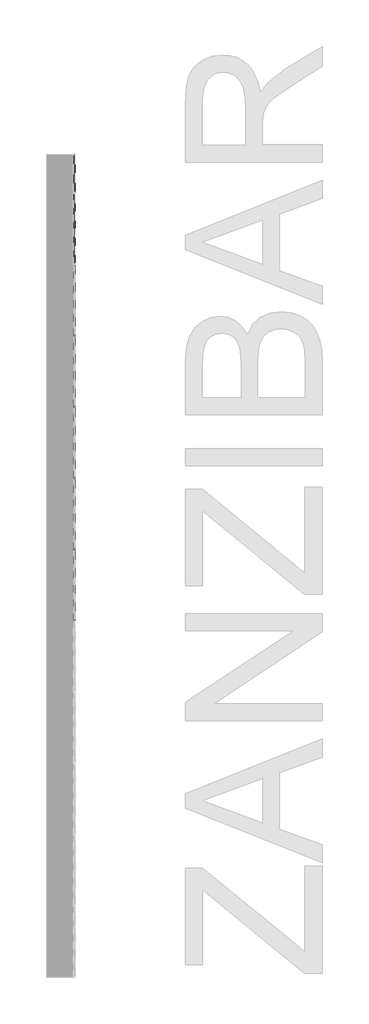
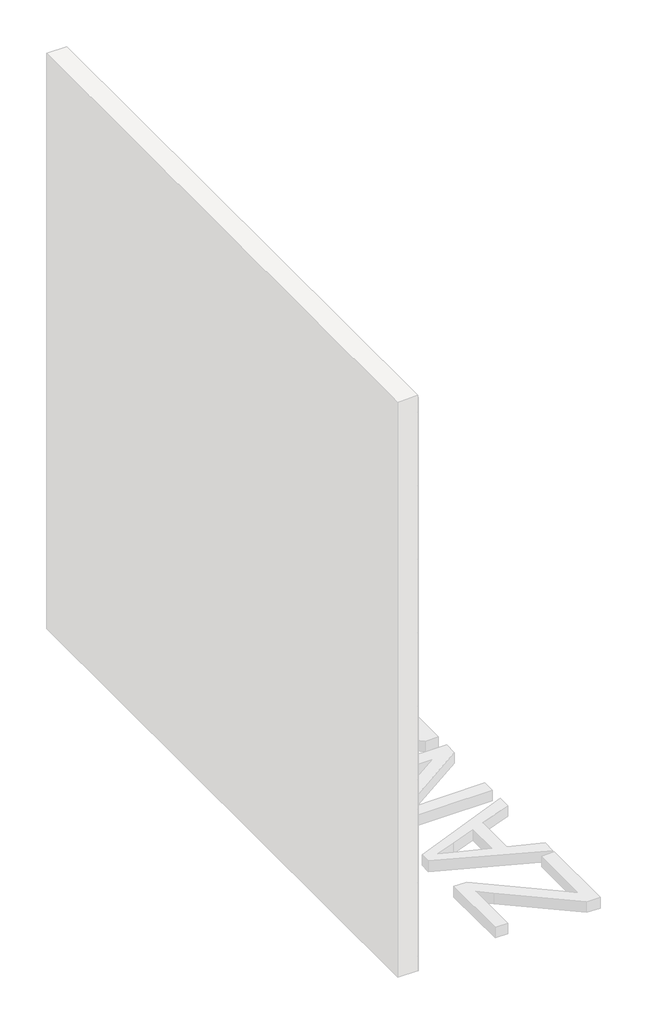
# One storey, part 44 of 45: 146 proxies.
"""IFC4 building model written with IfcOpenShell, lengths in millimetres."""

from ifc_helpers import new_model, si_unit, origin, place, context, project, spatial, transform, mapped, element, save
from components import generic_models_ab0f2c30, generic_models_1527efce

model = new_model("IFC4")

# Units and contexts
model_context = context("Model", 3, world=origin())
ifc_project = project(units=[si_unit("LENGTHUNIT", "METRE", prefix="MILLI")], contexts=[model_context])

# Site, building, storey
site = spatial("IfcSite", under=ifc_project)
building = spatial("IfcBuilding", under=site)
storey = spatial("IfcBuildingStorey", under=building, Name="PORTOBELLO - SHOWROOM", Elevation=0.0)

# Proxies
placement = place(None, origin())
generic_models_shape = generic_models_ab0f2c30(model_context)
element("IfcBuildingElementProxy", 1, Name="PBSHOP - HORIZONTES ZANZIBAR 6,5X23 : ZANZIBAR", ObjectType="PBSHOP - HORIZONTES ZANZIBAR 6,5X23 : ZANZIBAR", at=placement, inside=storey, context=model_context, shape_type="MappedRepresentation", body=[
    mapped(generic_models_shape, transform((69111.8826867, 22220.0864672, 34.5), x_axis=(0.0, 0.0, 1.0), y_axis=(0.0, -1.0, 0.0), z_axis=(1.0, 0.0, 0.0))),
])
element("IfcBuildingElementProxy", 2, Name="PBSHOP - HORIZONTES ZANZIBAR 6,5X23 : ZANZIBAR", ObjectType="PBSHOP - HORIZONTES ZANZIBAR 6,5X23 : ZANZIBAR", at=placement, inside=storey, context=model_context, shape_type="MappedRepresentation", body=[
    mapped(generic_models_shape, transform((69111.8826867, 22220.0864672, 103.5), x_axis=(0.0, 0.0, 1.0), y_axis=(0.0, -1.0, 0.0), z_axis=(1.0, 0.0, 0.0))),
])
element("IfcBuildingElementProxy", 3, Name="PBSHOP - HORIZONTES ZANZIBAR 6,5X23 : ZANZIBAR", ObjectType="PBSHOP - HORIZONTES ZANZIBAR 6,5X23 : ZANZIBAR", at=placement, inside=storey, context=model_context, shape_type="MappedRepresentation", body=[
    mapped(generic_models_shape, transform((69111.8826867, 22220.0864672, 172.5), x_axis=(0.0, 0.0, 1.0), y_axis=(0.0, -1.0, 0.0), z_axis=(1.0, 0.0, 0.0))),
])
element("IfcBuildingElementProxy", 4, Name="PBSHOP - HORIZONTES ZANZIBAR 6,5X23 : ZANZIBAR", ObjectType="PBSHOP - HORIZONTES ZANZIBAR 6,5X23 : ZANZIBAR", at=placement, inside=storey, context=model_context, shape_type="MappedRepresentation", body=[
    mapped(generic_models_shape, transform((69111.8826867, 22220.0864672, 241.5), x_axis=(0.0, 0.0, 1.0), y_axis=(0.0, -1.0, 0.0), z_axis=(1.0, 0.0, 0.0))),
])
element("IfcBuildingElementProxy", 5, Name="PBSHOP - HORIZONTES ZANZIBAR 6,5X23 : ZANZIBAR", ObjectType="PBSHOP - HORIZONTES ZANZIBAR 6,5X23 : ZANZIBAR", at=placement, inside=storey, context=model_context, shape_type="MappedRepresentation", body=[
    mapped(generic_models_shape, transform((69111.8826867, 22220.0864672, 310.5), x_axis=(0.0, 0.0, 1.0), y_axis=(0.0, -1.0, 0.0), z_axis=(1.0, 0.0, 0.0))),
])
element("IfcBuildingElementProxy", 6, Name="PBSHOP - HORIZONTES ZANZIBAR 6,5X23 : ZANZIBAR", ObjectType="PBSHOP - HORIZONTES ZANZIBAR 6,5X23 : ZANZIBAR", at=placement, inside=storey, context=model_context, shape_type="MappedRepresentation", body=[
    mapped(generic_models_shape, transform((69111.8826867, 22220.0864672, 379.5), x_axis=(0.0, 0.0, 1.0), y_axis=(0.0, -1.0, 0.0), z_axis=(1.0, 0.0, 0.0))),
])
element("IfcBuildingElementProxy", 7, Name="PBSHOP - HORIZONTES ZANZIBAR 6,5X23 : ZANZIBAR", ObjectType="PBSHOP - HORIZONTES ZANZIBAR 6,5X23 : ZANZIBAR", at=placement, inside=storey, context=model_context, shape_type="MappedRepresentation", body=[
    mapped(generic_models_shape, transform((69111.8826867, 22220.0864672, 448.5), x_axis=(0.0, 0.0, 1.0), y_axis=(0.0, -1.0, 0.0), z_axis=(1.0, 0.0, 0.0))),
])
element("IfcBuildingElementProxy", 8, Name="PBSHOP - HORIZONTES ZANZIBAR 6,5X23 : ZANZIBAR", ObjectType="PBSHOP - HORIZONTES ZANZIBAR 6,5X23 : ZANZIBAR", at=placement, inside=storey, context=model_context, shape_type="MappedRepresentation", body=[
    mapped(generic_models_shape, transform((69111.8826867, 22220.0864672, 517.5), x_axis=(0.0, 0.0, 1.0), y_axis=(0.0, -1.0, 0.0), z_axis=(1.0, 0.0, 0.0))),
])
element("IfcBuildingElementProxy", 9, Name="PBSHOP - HORIZONTES ZANZIBAR 6,5X23 : ZANZIBAR", ObjectType="PBSHOP - HORIZONTES ZANZIBAR 6,5X23 : ZANZIBAR", at=placement, inside=storey, context=model_context, shape_type="MappedRepresentation", body=[
    mapped(generic_models_shape, transform((69111.8826867, 22220.0864672, 586.5), x_axis=(0.0, 0.0, 1.0), y_axis=(0.0, -1.0, 0.0), z_axis=(1.0, 0.0, 0.0))),
])
element("IfcBuildingElementProxy", 10, Name="PBSHOP - HORIZONTES ZANZIBAR 6,5X23 : ZANZIBAR", ObjectType="PBSHOP - HORIZONTES ZANZIBAR 6,5X23 : ZANZIBAR", at=placement, inside=storey, context=model_context, shape_type="MappedRepresentation", body=[
    mapped(generic_models_shape, transform((69111.8826867, 22220.0864672, 655.5), x_axis=(0.0, 0.0, 1.0), y_axis=(0.0, -1.0, 0.0), z_axis=(1.0, 0.0, 0.0))),
])
element("IfcBuildingElementProxy", 11, Name="PBSHOP - HORIZONTES ZANZIBAR 6,5X23 : ZANZIBAR", ObjectType="PBSHOP - HORIZONTES ZANZIBAR 6,5X23 : ZANZIBAR", at=placement, inside=storey, context=model_context, shape_type="MappedRepresentation", body=[
    mapped(generic_models_shape, transform((69111.8826867, 22220.0864672, 724.5), x_axis=(0.0, 0.0, 1.0), y_axis=(0.0, -1.0, 0.0), z_axis=(1.0, 0.0, 0.0))),
])
element("IfcBuildingElementProxy", 12, Name="PBSHOP - HORIZONTES ZANZIBAR 6,5X23 : ZANZIBAR", ObjectType="PBSHOP - HORIZONTES ZANZIBAR 6,5X23 : ZANZIBAR", at=placement, inside=storey, context=model_context, shape_type="MappedRepresentation", body=[
    mapped(generic_models_shape, transform((69111.8826867, 22220.0864672, 793.5), x_axis=(0.0, 0.0, 1.0), y_axis=(0.0, -1.0, 0.0), z_axis=(1.0, 0.0, 0.0))),
])
element("IfcBuildingElementProxy", 13, Name="PBSHOP - HORIZONTES ZANZIBAR 6,5X23 : ZANZIBAR", ObjectType="PBSHOP - HORIZONTES ZANZIBAR 6,5X23 : ZANZIBAR", at=placement, inside=storey, context=model_context, shape_type="MappedRepresentation", body=[
    mapped(generic_models_shape, transform((69111.8826867, 22220.0864672, 862.5), x_axis=(0.0, 0.0, 1.0), y_axis=(0.0, -1.0, 0.0), z_axis=(1.0, 0.0, 0.0))),
])
element("IfcBuildingElementProxy", 14, Name="PBSHOP - HORIZONTES ZANZIBAR 6,5X23 : ZANZIBAR", ObjectType="PBSHOP - HORIZONTES ZANZIBAR 6,5X23 : ZANZIBAR", at=placement, inside=storey, context=model_context, shape_type="MappedRepresentation", body=[
    mapped(generic_models_shape, transform((69111.8826867, 22220.0864672, 931.5), x_axis=(0.0, 0.0, 1.0), y_axis=(0.0, -1.0, 0.0), z_axis=(1.0, 0.0, 0.0))),
])
element("IfcBuildingElementProxy", 15, Name="PBSHOP - HORIZONTES ZANZIBAR 6,5X23 : ZANZIBAR", ObjectType="PBSHOP - HORIZONTES ZANZIBAR 6,5X23 : ZANZIBAR", at=placement, inside=storey, context=model_context, shape_type="MappedRepresentation", body=[
    mapped(generic_models_shape, transform((69111.8826867, 22220.0864672, 1000.5), x_axis=(0.0, 0.0, 1.0), y_axis=(0.0, -1.0, 0.0), z_axis=(1.0, 0.0, 0.0))),
])
element("IfcBuildingElementProxy", 16, Name="PBSHOP - HORIZONTES ZANZIBAR 6,5X23 : ZANZIBAR", ObjectType="PBSHOP - HORIZONTES ZANZIBAR 6,5X23 : ZANZIBAR", at=placement, inside=storey, context=model_context, shape_type="MappedRepresentation", body=[
    mapped(generic_models_shape, transform((69111.8826867, 22220.0864672, 1069.5), x_axis=(0.0, 0.0, 1.0), y_axis=(0.0, -1.0, 0.0), z_axis=(1.0, 0.0, 0.0))),
])
element("IfcBuildingElementProxy", 17, Name="PBSHOP - HORIZONTES ZANZIBAR 6,5X23 : ZANZIBAR", ObjectType="PBSHOP - HORIZONTES ZANZIBAR 6,5X23 : ZANZIBAR", at=placement, inside=storey, context=model_context, shape_type="MappedRepresentation", body=[
    mapped(generic_models_shape, transform((69111.8826867, 22220.0864672, 1138.5), x_axis=(0.0, 0.0, 1.0), y_axis=(0.0, -1.0, 0.0), z_axis=(1.0, 0.0, 0.0))),
])
element("IfcBuildingElementProxy", 18, Name="PBSHOP - HORIZONTES ZANZIBAR 6,5X23 : ZANZIBAR", ObjectType="PBSHOP - HORIZONTES ZANZIBAR 6,5X23 : ZANZIBAR", at=placement, inside=storey, context=model_context, shape_type="MappedRepresentation", body=[
    mapped(generic_models_shape, transform((69111.8826867, 22220.0864672, 1207.5), x_axis=(0.0, 0.0, 1.0), y_axis=(0.0, -1.0, 0.0), z_axis=(1.0, 0.0, 0.0))),
])
element("IfcBuildingElementProxy", 19, Name="PBSHOP - HORIZONTES ZANZIBAR 6,5X23 : ZANZIBAR", ObjectType="PBSHOP - HORIZONTES ZANZIBAR 6,5X23 : ZANZIBAR", at=placement, inside=storey, context=model_context, shape_type="MappedRepresentation", body=[
    mapped(generic_models_shape, transform((69111.8826867, 21050.0864672, 1276.5), x_axis=(0.0, 0.0, 1.0), y_axis=(0.0, -1.0, 0.0), z_axis=(1.0, 0.0, 0.0))),
])
element("IfcBuildingElementProxy", 20, Name="PBSHOP - HORIZONTES ZANZIBAR 6,5X23 : ZANZIBAR", ObjectType="PBSHOP - HORIZONTES ZANZIBAR 6,5X23 : ZANZIBAR", at=placement, inside=storey, context=model_context, shape_type="MappedRepresentation", body=[
    mapped(generic_models_shape, transform((69111.8826867, 21284.0864672, 1276.5), x_axis=(0.0, 0.0, 1.0), y_axis=(0.0, -1.0, 0.0), z_axis=(1.0, 0.0, 0.0))),
])
element("IfcBuildingElementProxy", 21, Name="PBSHOP - HORIZONTES ZANZIBAR 6,5X23 : ZANZIBAR", ObjectType="PBSHOP - HORIZONTES ZANZIBAR 6,5X23 : ZANZIBAR", at=placement, inside=storey, context=model_context, shape_type="MappedRepresentation", body=[
    mapped(generic_models_shape, transform((69111.8826867, 21518.0864672, 1276.5), x_axis=(0.0, 0.0, 1.0), y_axis=(0.0, -1.0, 0.0), z_axis=(1.0, 0.0, 0.0))),
])
element("IfcBuildingElementProxy", 22, Name="PBSHOP - HORIZONTES ZANZIBAR 6,5X23 : ZANZIBAR", ObjectType="PBSHOP - HORIZONTES ZANZIBAR 6,5X23 : ZANZIBAR", at=placement, inside=storey, context=model_context, shape_type="MappedRepresentation", body=[
    mapped(generic_models_shape, transform((69111.8826867, 21752.0864672, 1276.5), x_axis=(0.0, 0.0, 1.0), y_axis=(0.0, -1.0, 0.0), z_axis=(1.0, 0.0, 0.0))),
])
element("IfcBuildingElementProxy", 23, Name="PBSHOP - HORIZONTES ZANZIBAR 6,5X23 : ZANZIBAR", ObjectType="PBSHOP - HORIZONTES ZANZIBAR 6,5X23 : ZANZIBAR", at=placement, inside=storey, context=model_context, shape_type="MappedRepresentation", body=[
    mapped(generic_models_shape, transform((69111.8826867, 21986.0864672, 1276.5), x_axis=(0.0, 0.0, 1.0), y_axis=(0.0, -1.0, 0.0), z_axis=(1.0, 0.0, 0.0))),
])
element("IfcBuildingElementProxy", 24, Name="PBSHOP - HORIZONTES ZANZIBAR 6,5X23 : ZANZIBAR", ObjectType="PBSHOP - HORIZONTES ZANZIBAR 6,5X23 : ZANZIBAR", at=placement, inside=storey, context=model_context, shape_type="MappedRepresentation", body=[
    mapped(generic_models_shape, transform((69111.8826867, 22220.0864672, 1276.5), x_axis=(0.0, 0.0, 1.0), y_axis=(0.0, -1.0, 0.0), z_axis=(1.0, 0.0, 0.0))),
])
element("IfcBuildingElementProxy", 25, Name="PBSHOP - HORIZONTES ZANZIBAR 6,5X23 : ZANZIBAR", ObjectType="PBSHOP - HORIZONTES ZANZIBAR 6,5X23 : ZANZIBAR", at=placement, inside=storey, context=model_context, shape_type="MappedRepresentation", body=[
    mapped(generic_models_shape, transform((69111.8826867, 21050.0864672, 1345.5), x_axis=(0.0, 0.0, 1.0), y_axis=(0.0, -1.0, 0.0), z_axis=(1.0, 0.0, 0.0))),
])
element("IfcBuildingElementProxy", 26, Name="PBSHOP - HORIZONTES ZANZIBAR 6,5X23 : ZANZIBAR", ObjectType="PBSHOP - HORIZONTES ZANZIBAR 6,5X23 : ZANZIBAR", at=placement, inside=storey, context=model_context, shape_type="MappedRepresentation", body=[
    mapped(generic_models_shape, transform((69111.8826867, 21284.0864672, 1345.5), x_axis=(0.0, 0.0, 1.0), y_axis=(0.0, -1.0, 0.0), z_axis=(1.0, 0.0, 0.0))),
])
element("IfcBuildingElementProxy", 27, Name="PBSHOP - HORIZONTES ZANZIBAR 6,5X23 : ZANZIBAR", ObjectType="PBSHOP - HORIZONTES ZANZIBAR 6,5X23 : ZANZIBAR", at=placement, inside=storey, context=model_context, shape_type="MappedRepresentation", body=[
    mapped(generic_models_shape, transform((69111.8826867, 21518.0864672, 1345.5), x_axis=(0.0, 0.0, 1.0), y_axis=(0.0, -1.0, 0.0), z_axis=(1.0, 0.0, 0.0))),
])
element("IfcBuildingElementProxy", 28, Name="PBSHOP - HORIZONTES ZANZIBAR 6,5X23 : ZANZIBAR", ObjectType="PBSHOP - HORIZONTES ZANZIBAR 6,5X23 : ZANZIBAR", at=placement, inside=storey, context=model_context, shape_type="MappedRepresentation", body=[
    mapped(generic_models_shape, transform((69111.8826867, 21752.0864672, 1345.5), x_axis=(0.0, 0.0, 1.0), y_axis=(0.0, -1.0, 0.0), z_axis=(1.0, 0.0, 0.0))),
])
element("IfcBuildingElementProxy", 29, Name="PBSHOP - HORIZONTES ZANZIBAR 6,5X23 : ZANZIBAR", ObjectType="PBSHOP - HORIZONTES ZANZIBAR 6,5X23 : ZANZIBAR", at=placement, inside=storey, context=model_context, shape_type="MappedRepresentation", body=[
    mapped(generic_models_shape, transform((69111.8826867, 21986.0864672, 1345.5), x_axis=(0.0, 0.0, 1.0), y_axis=(0.0, -1.0, 0.0), z_axis=(1.0, 0.0, 0.0))),
])
element("IfcBuildingElementProxy", 30, Name="PBSHOP - HORIZONTES ZANZIBAR 6,5X23 : ZANZIBAR", ObjectType="PBSHOP - HORIZONTES ZANZIBAR 6,5X23 : ZANZIBAR", at=placement, inside=storey, context=model_context, shape_type="MappedRepresentation", body=[
    mapped(generic_models_shape, transform((69111.8826867, 22220.0864672, 1345.5), x_axis=(0.0, 0.0, 1.0), y_axis=(0.0, -1.0, 0.0), z_axis=(1.0, 0.0, 0.0))),
])
element("IfcBuildingElementProxy", 31, Name="PBSHOP - HORIZONTES ZANZIBAR 6,5X23 : ZANZIBAR", ObjectType="PBSHOP - HORIZONTES ZANZIBAR 6,5X23 : ZANZIBAR", at=placement, inside=storey, context=model_context, shape_type="MappedRepresentation", body=[
    mapped(generic_models_shape, transform((69111.8826867, 21050.0864672, 1414.5), x_axis=(0.0, 0.0, 1.0), y_axis=(0.0, -1.0, 0.0), z_axis=(1.0, 0.0, 0.0))),
])
element("IfcBuildingElementProxy", 32, Name="PBSHOP - HORIZONTES ZANZIBAR 6,5X23 : ZANZIBAR", ObjectType="PBSHOP - HORIZONTES ZANZIBAR 6,5X23 : ZANZIBAR", at=placement, inside=storey, context=model_context, shape_type="MappedRepresentation", body=[
    mapped(generic_models_shape, transform((69111.8826867, 21284.0864672, 1414.5), x_axis=(0.0, 0.0, 1.0), y_axis=(0.0, -1.0, 0.0), z_axis=(1.0, 0.0, 0.0))),
])
element("IfcBuildingElementProxy", 33, Name="PBSHOP - HORIZONTES ZANZIBAR 6,5X23 : ZANZIBAR", ObjectType="PBSHOP - HORIZONTES ZANZIBAR 6,5X23 : ZANZIBAR", at=placement, inside=storey, context=model_context, shape_type="MappedRepresentation", body=[
    mapped(generic_models_shape, transform((69111.8826867, 21518.0864672, 1414.5), x_axis=(0.0, 0.0, 1.0), y_axis=(0.0, -1.0, 0.0), z_axis=(1.0, 0.0, 0.0))),
])
element("IfcBuildingElementProxy", 34, Name="PBSHOP - HORIZONTES ZANZIBAR 6,5X23 : ZANZIBAR", ObjectType="PBSHOP - HORIZONTES ZANZIBAR 6,5X23 : ZANZIBAR", at=placement, inside=storey, context=model_context, shape_type="MappedRepresentation", body=[
    mapped(generic_models_shape, transform((69111.8826867, 21752.0864672, 1414.5), x_axis=(0.0, 0.0, 1.0), y_axis=(0.0, -1.0, 0.0), z_axis=(1.0, 0.0, 0.0))),
])
element("IfcBuildingElementProxy", 35, Name="PBSHOP - HORIZONTES ZANZIBAR 6,5X23 : ZANZIBAR", ObjectType="PBSHOP - HORIZONTES ZANZIBAR 6,5X23 : ZANZIBAR", at=placement, inside=storey, context=model_context, shape_type="MappedRepresentation", body=[
    mapped(generic_models_shape, transform((69111.8826867, 21986.0864672, 1414.5), x_axis=(0.0, 0.0, 1.0), y_axis=(0.0, -1.0, 0.0), z_axis=(1.0, 0.0, 0.0))),
])
element("IfcBuildingElementProxy", 36, Name="PBSHOP - HORIZONTES ZANZIBAR 6,5X23 : ZANZIBAR", ObjectType="PBSHOP - HORIZONTES ZANZIBAR 6,5X23 : ZANZIBAR", at=placement, inside=storey, context=model_context, shape_type="MappedRepresentation", body=[
    mapped(generic_models_shape, transform((69111.8826867, 22220.0864672, 1414.5), x_axis=(0.0, 0.0, 1.0), y_axis=(0.0, -1.0, 0.0), z_axis=(1.0, 0.0, 0.0))),
])
element("IfcBuildingElementProxy", 37, Name="PBSHOP - HORIZONTES ZANZIBAR 6,5X23 : ZANZIBAR", ObjectType="PBSHOP - HORIZONTES ZANZIBAR 6,5X23 : ZANZIBAR", at=placement, inside=storey, context=model_context, shape_type="MappedRepresentation", body=[
    mapped(generic_models_shape, transform((69111.8826867, 21050.0864672, 1483.5), x_axis=(0.0, 0.0, 1.0), y_axis=(0.0, -1.0, 0.0), z_axis=(1.0, 0.0, 0.0))),
])
element("IfcBuildingElementProxy", 38, Name="PBSHOP - HORIZONTES ZANZIBAR 6,5X23 : ZANZIBAR", ObjectType="PBSHOP - HORIZONTES ZANZIBAR 6,5X23 : ZANZIBAR", at=placement, inside=storey, context=model_context, shape_type="MappedRepresentation", body=[
    mapped(generic_models_shape, transform((69111.8826867, 21284.0864672, 1483.5), x_axis=(0.0, 0.0, 1.0), y_axis=(0.0, -1.0, 0.0), z_axis=(1.0, 0.0, 0.0))),
])
element("IfcBuildingElementProxy", 39, Name="PBSHOP - HORIZONTES ZANZIBAR 6,5X23 : ZANZIBAR", ObjectType="PBSHOP - HORIZONTES ZANZIBAR 6,5X23 : ZANZIBAR", at=placement, inside=storey, context=model_context, shape_type="MappedRepresentation", body=[
    mapped(generic_models_shape, transform((69111.8826867, 21518.0864672, 1483.5), x_axis=(0.0, 0.0, 1.0), y_axis=(0.0, -1.0, 0.0), z_axis=(1.0, 0.0, 0.0))),
])
element("IfcBuildingElementProxy", 40, Name="PBSHOP - HORIZONTES ZANZIBAR 6,5X23 : ZANZIBAR", ObjectType="PBSHOP - HORIZONTES ZANZIBAR 6,5X23 : ZANZIBAR", at=placement, inside=storey, context=model_context, shape_type="MappedRepresentation", body=[
    mapped(generic_models_shape, transform((69111.8826867, 21752.0864672, 1483.5), x_axis=(0.0, 0.0, 1.0), y_axis=(0.0, -1.0, 0.0), z_axis=(1.0, 0.0, 0.0))),
])
element("IfcBuildingElementProxy", 41, Name="PBSHOP - HORIZONTES ZANZIBAR 6,5X23 : ZANZIBAR", ObjectType="PBSHOP - HORIZONTES ZANZIBAR 6,5X23 : ZANZIBAR", at=placement, inside=storey, context=model_context, shape_type="MappedRepresentation", body=[
    mapped(generic_models_shape, transform((69111.8826867, 21986.0864672, 1483.5), x_axis=(0.0, 0.0, 1.0), y_axis=(0.0, -1.0, 0.0), z_axis=(1.0, 0.0, 0.0))),
])
element("IfcBuildingElementProxy", 42, Name="PBSHOP - HORIZONTES ZANZIBAR 6,5X23 : ZANZIBAR", ObjectType="PBSHOP - HORIZONTES ZANZIBAR 6,5X23 : ZANZIBAR", at=placement, inside=storey, context=model_context, shape_type="MappedRepresentation", body=[
    mapped(generic_models_shape, transform((69111.8826867, 21050.0864672, 1552.5), x_axis=(0.0, 0.0, 1.0), y_axis=(0.0, -1.0, 0.0), z_axis=(1.0, 0.0, 0.0))),
])
element("IfcBuildingElementProxy", 43, Name="PBSHOP - HORIZONTES ZANZIBAR 6,5X23 : ZANZIBAR", ObjectType="PBSHOP - HORIZONTES ZANZIBAR 6,5X23 : ZANZIBAR", at=placement, inside=storey, context=model_context, shape_type="MappedRepresentation", body=[
    mapped(generic_models_shape, transform((69111.8826867, 21284.0864672, 1552.5), x_axis=(0.0, 0.0, 1.0), y_axis=(0.0, -1.0, 0.0), z_axis=(1.0, 0.0, 0.0))),
])
element("IfcBuildingElementProxy", 44, Name="PBSHOP - HORIZONTES ZANZIBAR 6,5X23 : ZANZIBAR", ObjectType="PBSHOP - HORIZONTES ZANZIBAR 6,5X23 : ZANZIBAR", at=placement, inside=storey, context=model_context, shape_type="MappedRepresentation", body=[
    mapped(generic_models_shape, transform((69111.8826867, 21518.0864672, 1552.5), x_axis=(0.0, 0.0, 1.0), y_axis=(0.0, -1.0, 0.0), z_axis=(1.0, 0.0, 0.0))),
])
element("IfcBuildingElementProxy", 45, Name="PBSHOP - HORIZONTES ZANZIBAR 6,5X23 : ZANZIBAR", ObjectType="PBSHOP - HORIZONTES ZANZIBAR 6,5X23 : ZANZIBAR", at=placement, inside=storey, context=model_context, shape_type="MappedRepresentation", body=[
    mapped(generic_models_shape, transform((69111.8826867, 21752.0864672, 1552.5), x_axis=(0.0, 0.0, 1.0), y_axis=(0.0, -1.0, 0.0), z_axis=(1.0, 0.0, 0.0))),
])
element("IfcBuildingElementProxy", 46, Name="PBSHOP - HORIZONTES ZANZIBAR 6,5X23 : ZANZIBAR", ObjectType="PBSHOP - HORIZONTES ZANZIBAR 6,5X23 : ZANZIBAR", at=placement, inside=storey, context=model_context, shape_type="MappedRepresentation", body=[
    mapped(generic_models_shape, transform((69111.8826867, 21986.0864672, 1552.5), x_axis=(0.0, 0.0, 1.0), y_axis=(0.0, -1.0, 0.0), z_axis=(1.0, 0.0, 0.0))),
])
element("IfcBuildingElementProxy", 47, Name="PBSHOP - HORIZONTES ZANZIBAR 6,5X23 : ZANZIBAR", ObjectType="PBSHOP - HORIZONTES ZANZIBAR 6,5X23 : ZANZIBAR", at=placement, inside=storey, context=model_context, shape_type="MappedRepresentation", body=[
    mapped(generic_models_shape, transform((69111.8826867, 21050.0864672, 1621.5), x_axis=(0.0, 0.0, 1.0), y_axis=(0.0, -1.0, 0.0), z_axis=(1.0, 0.0, 0.0))),
])
element("IfcBuildingElementProxy", 48, Name="PBSHOP - HORIZONTES ZANZIBAR 6,5X23 : ZANZIBAR", ObjectType="PBSHOP - HORIZONTES ZANZIBAR 6,5X23 : ZANZIBAR", at=placement, inside=storey, context=model_context, shape_type="MappedRepresentation", body=[
    mapped(generic_models_shape, transform((69111.8826867, 21284.0864672, 1621.5), x_axis=(0.0, 0.0, 1.0), y_axis=(0.0, -1.0, 0.0), z_axis=(1.0, 0.0, 0.0))),
])
element("IfcBuildingElementProxy", 49, Name="PBSHOP - HORIZONTES ZANZIBAR 6,5X23 : ZANZIBAR", ObjectType="PBSHOP - HORIZONTES ZANZIBAR 6,5X23 : ZANZIBAR", at=placement, inside=storey, context=model_context, shape_type="MappedRepresentation", body=[
    mapped(generic_models_shape, transform((69111.8826867, 21518.0864672, 1621.5), x_axis=(0.0, 0.0, 1.0), y_axis=(0.0, -1.0, 0.0), z_axis=(1.0, 0.0, 0.0))),
])
element("IfcBuildingElementProxy", 50, Name="PBSHOP - HORIZONTES ZANZIBAR 6,5X23 : ZANZIBAR", ObjectType="PBSHOP - HORIZONTES ZANZIBAR 6,5X23 : ZANZIBAR", at=placement, inside=storey, context=model_context, shape_type="MappedRepresentation", body=[
    mapped(generic_models_shape, transform((69111.8826867, 21752.0864672, 1621.5), x_axis=(0.0, 0.0, 1.0), y_axis=(0.0, -1.0, 0.0), z_axis=(1.0, 0.0, 0.0))),
])
element("IfcBuildingElementProxy", 51, Name="PBSHOP - HORIZONTES ZANZIBAR 6,5X23 : ZANZIBAR", ObjectType="PBSHOP - HORIZONTES ZANZIBAR 6,5X23 : ZANZIBAR", at=placement, inside=storey, context=model_context, shape_type="MappedRepresentation", body=[
    mapped(generic_models_shape, transform((69111.8826867, 21986.0864672, 1621.5), x_axis=(0.0, 0.0, 1.0), y_axis=(0.0, -1.0, 0.0), z_axis=(1.0, 0.0, 0.0))),
])
element("IfcBuildingElementProxy", 52, Name="PBSHOP - HORIZONTES ZANZIBAR 6,5X23 : ZANZIBAR", ObjectType="PBSHOP - HORIZONTES ZANZIBAR 6,5X23 : ZANZIBAR", at=placement, inside=storey, context=model_context, shape_type="MappedRepresentation", body=[
    mapped(generic_models_shape, transform((69111.8826867, 21050.0864672, 1690.5), x_axis=(0.0, 0.0, 1.0), y_axis=(0.0, -1.0, 0.0), z_axis=(1.0, 0.0, 0.0))),
])
element("IfcBuildingElementProxy", 53, Name="PBSHOP - HORIZONTES ZANZIBAR 6,5X23 : ZANZIBAR", ObjectType="PBSHOP - HORIZONTES ZANZIBAR 6,5X23 : ZANZIBAR", at=placement, inside=storey, context=model_context, shape_type="MappedRepresentation", body=[
    mapped(generic_models_shape, transform((69111.8826867, 21284.0864672, 1690.5), x_axis=(0.0, 0.0, 1.0), y_axis=(0.0, -1.0, 0.0), z_axis=(1.0, 0.0, 0.0))),
])
element("IfcBuildingElementProxy", 54, Name="PBSHOP - HORIZONTES ZANZIBAR 6,5X23 : ZANZIBAR", ObjectType="PBSHOP - HORIZONTES ZANZIBAR 6,5X23 : ZANZIBAR", at=placement, inside=storey, context=model_context, shape_type="MappedRepresentation", body=[
    mapped(generic_models_shape, transform((69111.8826867, 21518.0864672, 1690.5), x_axis=(0.0, 0.0, 1.0), y_axis=(0.0, -1.0, 0.0), z_axis=(1.0, 0.0, 0.0))),
])
element("IfcBuildingElementProxy", 55, Name="PBSHOP - HORIZONTES ZANZIBAR 6,5X23 : ZANZIBAR", ObjectType="PBSHOP - HORIZONTES ZANZIBAR 6,5X23 : ZANZIBAR", at=placement, inside=storey, context=model_context, shape_type="MappedRepresentation", body=[
    mapped(generic_models_shape, transform((69111.8826867, 21752.0864672, 1690.5), x_axis=(0.0, 0.0, 1.0), y_axis=(0.0, -1.0, 0.0), z_axis=(1.0, 0.0, 0.0))),
])
element("IfcBuildingElementProxy", 56, Name="PBSHOP - HORIZONTES ZANZIBAR 6,5X23 : ZANZIBAR", ObjectType="PBSHOP - HORIZONTES ZANZIBAR 6,5X23 : ZANZIBAR", at=placement, inside=storey, context=model_context, shape_type="MappedRepresentation", body=[
    mapped(generic_models_shape, transform((69111.8826867, 21986.0864672, 1690.5), x_axis=(0.0, 0.0, 1.0), y_axis=(0.0, -1.0, 0.0), z_axis=(1.0, 0.0, 0.0))),
])
element("IfcBuildingElementProxy", 57, Name="PBSHOP - HORIZONTES ZANZIBAR 6,5X23 : ZANZIBAR", ObjectType="PBSHOP - HORIZONTES ZANZIBAR 6,5X23 : ZANZIBAR", at=placement, inside=storey, context=model_context, shape_type="MappedRepresentation", body=[
    mapped(generic_models_shape, transform((69111.8826867, 21050.0864672, 1759.5), x_axis=(0.0, 0.0, 1.0), y_axis=(0.0, -1.0, 0.0), z_axis=(1.0, 0.0, 0.0))),
])
element("IfcBuildingElementProxy", 58, Name="PBSHOP - HORIZONTES ZANZIBAR 6,5X23 : ZANZIBAR", ObjectType="PBSHOP - HORIZONTES ZANZIBAR 6,5X23 : ZANZIBAR", at=placement, inside=storey, context=model_context, shape_type="MappedRepresentation", body=[
    mapped(generic_models_shape, transform((69111.8826867, 21284.0864672, 1759.5), x_axis=(0.0, 0.0, 1.0), y_axis=(0.0, -1.0, 0.0), z_axis=(1.0, 0.0, 0.0))),
])
element("IfcBuildingElementProxy", 59, Name="PBSHOP - HORIZONTES ZANZIBAR 6,5X23 : ZANZIBAR", ObjectType="PBSHOP - HORIZONTES ZANZIBAR 6,5X23 : ZANZIBAR", at=placement, inside=storey, context=model_context, shape_type="MappedRepresentation", body=[
    mapped(generic_models_shape, transform((69111.8826867, 21518.0864672, 1759.5), x_axis=(0.0, 0.0, 1.0), y_axis=(0.0, -1.0, 0.0), z_axis=(1.0, 0.0, 0.0))),
])
element("IfcBuildingElementProxy", 60, Name="PBSHOP - HORIZONTES ZANZIBAR 6,5X23 : ZANZIBAR", ObjectType="PBSHOP - HORIZONTES ZANZIBAR 6,5X23 : ZANZIBAR", at=placement, inside=storey, context=model_context, shape_type="MappedRepresentation", body=[
    mapped(generic_models_shape, transform((69111.8826867, 21752.0864672, 1759.5), x_axis=(0.0, 0.0, 1.0), y_axis=(0.0, -1.0, 0.0), z_axis=(1.0, 0.0, 0.0))),
])
element("IfcBuildingElementProxy", 61, Name="PBSHOP - HORIZONTES ZANZIBAR 6,5X23 : ZANZIBAR", ObjectType="PBSHOP - HORIZONTES ZANZIBAR 6,5X23 : ZANZIBAR", at=placement, inside=storey, context=model_context, shape_type="MappedRepresentation", body=[
    mapped(generic_models_shape, transform((69111.8826867, 21986.0864672, 1759.5), x_axis=(0.0, 0.0, 1.0), y_axis=(0.0, -1.0, 0.0), z_axis=(1.0, 0.0, 0.0))),
])
element("IfcBuildingElementProxy", 62, Name="PBSHOP - HORIZONTES ZANZIBAR 6,5X23 : ZANZIBAR", ObjectType="PBSHOP - HORIZONTES ZANZIBAR 6,5X23 : ZANZIBAR", at=placement, inside=storey, context=model_context, shape_type="MappedRepresentation", body=[
    mapped(generic_models_shape, transform((69111.8826867, 21050.0864672, 1828.5), x_axis=(0.0, 0.0, 1.0), y_axis=(0.0, -1.0, 0.0), z_axis=(1.0, 0.0, 0.0))),
])
element("IfcBuildingElementProxy", 63, Name="PBSHOP - HORIZONTES ZANZIBAR 6,5X23 : ZANZIBAR", ObjectType="PBSHOP - HORIZONTES ZANZIBAR 6,5X23 : ZANZIBAR", at=placement, inside=storey, context=model_context, shape_type="MappedRepresentation", body=[
    mapped(generic_models_shape, transform((69111.8826867, 21284.0864672, 1828.5), x_axis=(0.0, 0.0, 1.0), y_axis=(0.0, -1.0, 0.0), z_axis=(1.0, 0.0, 0.0))),
])
element("IfcBuildingElementProxy", 64, Name="PBSHOP - HORIZONTES ZANZIBAR 6,5X23 : ZANZIBAR", ObjectType="PBSHOP - HORIZONTES ZANZIBAR 6,5X23 : ZANZIBAR", at=placement, inside=storey, context=model_context, shape_type="MappedRepresentation", body=[
    mapped(generic_models_shape, transform((69111.8826867, 21518.0864672, 1828.5), x_axis=(0.0, 0.0, 1.0), y_axis=(0.0, -1.0, 0.0), z_axis=(1.0, 0.0, 0.0))),
])
element("IfcBuildingElementProxy", 65, Name="PBSHOP - HORIZONTES ZANZIBAR 6,5X23 : ZANZIBAR", ObjectType="PBSHOP - HORIZONTES ZANZIBAR 6,5X23 : ZANZIBAR", at=placement, inside=storey, context=model_context, shape_type="MappedRepresentation", body=[
    mapped(generic_models_shape, transform((69111.8826867, 21752.0864672, 1828.5), x_axis=(0.0, 0.0, 1.0), y_axis=(0.0, -1.0, 0.0), z_axis=(1.0, 0.0, 0.0))),
])
element("IfcBuildingElementProxy", 66, Name="PBSHOP - HORIZONTES ZANZIBAR 6,5X23 : ZANZIBAR", ObjectType="PBSHOP - HORIZONTES ZANZIBAR 6,5X23 : ZANZIBAR", at=placement, inside=storey, context=model_context, shape_type="MappedRepresentation", body=[
    mapped(generic_models_shape, transform((69111.8826867, 21986.0864672, 1828.5), x_axis=(0.0, 0.0, 1.0), y_axis=(0.0, -1.0, 0.0), z_axis=(1.0, 0.0, 0.0))),
])
element("IfcBuildingElementProxy", 67, Name="PBSHOP - HORIZONTES ZANZIBAR 6,5X23 : ZANZIBAR", ObjectType="PBSHOP - HORIZONTES ZANZIBAR 6,5X23 : ZANZIBAR", at=placement, inside=storey, context=model_context, shape_type="MappedRepresentation", body=[
    mapped(generic_models_shape, transform((69111.8826867, 21050.0864672, 1897.5), x_axis=(0.0, 0.0, 1.0), y_axis=(0.0, -1.0, 0.0), z_axis=(1.0, 0.0, 0.0))),
])
element("IfcBuildingElementProxy", 68, Name="PBSHOP - HORIZONTES ZANZIBAR 6,5X23 : ZANZIBAR", ObjectType="PBSHOP - HORIZONTES ZANZIBAR 6,5X23 : ZANZIBAR", at=placement, inside=storey, context=model_context, shape_type="MappedRepresentation", body=[
    mapped(generic_models_shape, transform((69111.8826867, 21284.0864672, 1897.5), x_axis=(0.0, 0.0, 1.0), y_axis=(0.0, -1.0, 0.0), z_axis=(1.0, 0.0, 0.0))),
])
element("IfcBuildingElementProxy", 69, Name="PBSHOP - HORIZONTES ZANZIBAR 6,5X23 : ZANZIBAR", ObjectType="PBSHOP - HORIZONTES ZANZIBAR 6,5X23 : ZANZIBAR", at=placement, inside=storey, context=model_context, shape_type="MappedRepresentation", body=[
    mapped(generic_models_shape, transform((69111.8826867, 21518.0864672, 1897.5), x_axis=(0.0, 0.0, 1.0), y_axis=(0.0, -1.0, 0.0), z_axis=(1.0, 0.0, 0.0))),
])
element("IfcBuildingElementProxy", 70, Name="PBSHOP - HORIZONTES ZANZIBAR 6,5X23 : ZANZIBAR", ObjectType="PBSHOP - HORIZONTES ZANZIBAR 6,5X23 : ZANZIBAR", at=placement, inside=storey, context=model_context, shape_type="MappedRepresentation", body=[
    mapped(generic_models_shape, transform((69111.8826867, 21752.0864672, 1897.5), x_axis=(0.0, 0.0, 1.0), y_axis=(0.0, -1.0, 0.0), z_axis=(1.0, 0.0, 0.0))),
])
element("IfcBuildingElementProxy", 71, Name="PBSHOP - HORIZONTES ZANZIBAR 6,5X23 : ZANZIBAR", ObjectType="PBSHOP - HORIZONTES ZANZIBAR 6,5X23 : ZANZIBAR", at=placement, inside=storey, context=model_context, shape_type="MappedRepresentation", body=[
    mapped(generic_models_shape, transform((69111.8826867, 21986.0864672, 1897.5), x_axis=(0.0, 0.0, 1.0), y_axis=(0.0, -1.0, 0.0), z_axis=(1.0, 0.0, 0.0))),
])
element("IfcBuildingElementProxy", 72, Name="PBSHOP - HORIZONTES ZANZIBAR 6,5X23 : ZANZIBAR", ObjectType="PBSHOP - HORIZONTES ZANZIBAR 6,5X23 : ZANZIBAR", at=placement, inside=storey, context=model_context, shape_type="MappedRepresentation", body=[
    mapped(generic_models_shape, transform((69111.8826867, 21050.0864672, 1966.5), x_axis=(0.0, 0.0, 1.0), y_axis=(0.0, -1.0, 0.0), z_axis=(1.0, 0.0, 0.0))),
])
element("IfcBuildingElementProxy", 73, Name="PBSHOP - HORIZONTES ZANZIBAR 6,5X23 : ZANZIBAR", ObjectType="PBSHOP - HORIZONTES ZANZIBAR 6,5X23 : ZANZIBAR", at=placement, inside=storey, context=model_context, shape_type="MappedRepresentation", body=[
    mapped(generic_models_shape, transform((69111.8826867, 21284.0864672, 1966.5), x_axis=(0.0, 0.0, 1.0), y_axis=(0.0, -1.0, 0.0), z_axis=(1.0, 0.0, 0.0))),
])
element("IfcBuildingElementProxy", 74, Name="PBSHOP - HORIZONTES ZANZIBAR 6,5X23 : ZANZIBAR", ObjectType="PBSHOP - HORIZONTES ZANZIBAR 6,5X23 : ZANZIBAR", at=placement, inside=storey, context=model_context, shape_type="MappedRepresentation", body=[
    mapped(generic_models_shape, transform((69111.8826867, 21518.0864672, 1966.5), x_axis=(0.0, 0.0, 1.0), y_axis=(0.0, -1.0, 0.0), z_axis=(1.0, 0.0, 0.0))),
])
element("IfcBuildingElementProxy", 75, Name="PBSHOP - HORIZONTES ZANZIBAR 6,5X23 : ZANZIBAR", ObjectType="PBSHOP - HORIZONTES ZANZIBAR 6,5X23 : ZANZIBAR", at=placement, inside=storey, context=model_context, shape_type="MappedRepresentation", body=[
    mapped(generic_models_shape, transform((69111.8826867, 21752.0864672, 1966.5), x_axis=(0.0, 0.0, 1.0), y_axis=(0.0, -1.0, 0.0), z_axis=(1.0, 0.0, 0.0))),
])
element("IfcBuildingElementProxy", 76, Name="PBSHOP - HORIZONTES ZANZIBAR 6,5X23 : ZANZIBAR", ObjectType="PBSHOP - HORIZONTES ZANZIBAR 6,5X23 : ZANZIBAR", at=placement, inside=storey, context=model_context, shape_type="MappedRepresentation", body=[
    mapped(generic_models_shape, transform((69111.8826867, 21986.0864672, 1966.5), x_axis=(0.0, 0.0, 1.0), y_axis=(0.0, -1.0, 0.0), z_axis=(1.0, 0.0, 0.0))),
])
element("IfcBuildingElementProxy", 77, Name="PBSHOP - HORIZONTES ZANZIBAR 6,5X23 : ZANZIBAR", ObjectType="PBSHOP - HORIZONTES ZANZIBAR 6,5X23 : ZANZIBAR", at=placement, inside=storey, context=model_context, shape_type="MappedRepresentation", body=[
    mapped(generic_models_shape, transform((69111.8826867, 21050.0864672, 2035.5), x_axis=(0.0, 0.0, 1.0), y_axis=(0.0, -1.0, 0.0), z_axis=(1.0, 0.0, 0.0))),
])
element("IfcBuildingElementProxy", 78, Name="PBSHOP - HORIZONTES ZANZIBAR 6,5X23 : ZANZIBAR", ObjectType="PBSHOP - HORIZONTES ZANZIBAR 6,5X23 : ZANZIBAR", at=placement, inside=storey, context=model_context, shape_type="MappedRepresentation", body=[
    mapped(generic_models_shape, transform((69111.8826867, 21284.0864672, 2035.5), x_axis=(0.0, 0.0, 1.0), y_axis=(0.0, -1.0, 0.0), z_axis=(1.0, 0.0, 0.0))),
])
element("IfcBuildingElementProxy", 79, Name="PBSHOP - HORIZONTES ZANZIBAR 6,5X23 : ZANZIBAR", ObjectType="PBSHOP - HORIZONTES ZANZIBAR 6,5X23 : ZANZIBAR", at=placement, inside=storey, context=model_context, shape_type="MappedRepresentation", body=[
    mapped(generic_models_shape, transform((69111.8826867, 21518.0864672, 2035.5), x_axis=(0.0, 0.0, 1.0), y_axis=(0.0, -1.0, 0.0), z_axis=(1.0, 0.0, 0.0))),
])
element("IfcBuildingElementProxy", 80, Name="PBSHOP - HORIZONTES ZANZIBAR 6,5X23 : ZANZIBAR", ObjectType="PBSHOP - HORIZONTES ZANZIBAR 6,5X23 : ZANZIBAR", at=placement, inside=storey, context=model_context, shape_type="MappedRepresentation", body=[
    mapped(generic_models_shape, transform((69111.8826867, 21752.0864672, 2035.5), x_axis=(0.0, 0.0, 1.0), y_axis=(0.0, -1.0, 0.0), z_axis=(1.0, 0.0, 0.0))),
])
element("IfcBuildingElementProxy", 81, Name="PBSHOP - HORIZONTES ZANZIBAR 6,5X23 : ZANZIBAR", ObjectType="PBSHOP - HORIZONTES ZANZIBAR 6,5X23 : ZANZIBAR", at=placement, inside=storey, context=model_context, shape_type="MappedRepresentation", body=[
    mapped(generic_models_shape, transform((69111.8826867, 21986.0864672, 2035.5), x_axis=(0.0, 0.0, 1.0), y_axis=(0.0, -1.0, 0.0), z_axis=(1.0, 0.0, 0.0))),
])
element("IfcBuildingElementProxy", 82, Name="PBSHOP - HORIZONTES ZANZIBAR 6,5X23 : ZANZIBAR", ObjectType="PBSHOP - HORIZONTES ZANZIBAR 6,5X23 : ZANZIBAR", at=placement, inside=storey, context=model_context, shape_type="MappedRepresentation", body=[
    mapped(generic_models_shape, transform((69111.8826867, 21050.0864672, 2104.5), x_axis=(0.0, 0.0, 1.0), y_axis=(0.0, -1.0, 0.0), z_axis=(1.0, 0.0, 0.0))),
])
element("IfcBuildingElementProxy", 83, Name="PBSHOP - HORIZONTES ZANZIBAR 6,5X23 : ZANZIBAR", ObjectType="PBSHOP - HORIZONTES ZANZIBAR 6,5X23 : ZANZIBAR", at=placement, inside=storey, context=model_context, shape_type="MappedRepresentation", body=[
    mapped(generic_models_shape, transform((69111.8826867, 21284.0864672, 2104.5), x_axis=(0.0, 0.0, 1.0), y_axis=(0.0, -1.0, 0.0), z_axis=(1.0, 0.0, 0.0))),
])
element("IfcBuildingElementProxy", 84, Name="PBSHOP - HORIZONTES ZANZIBAR 6,5X23 : ZANZIBAR", ObjectType="PBSHOP - HORIZONTES ZANZIBAR 6,5X23 : ZANZIBAR", at=placement, inside=storey, context=model_context, shape_type="MappedRepresentation", body=[
    mapped(generic_models_shape, transform((69111.8826867, 21518.0864672, 2104.5), x_axis=(0.0, 0.0, 1.0), y_axis=(0.0, -1.0, 0.0), z_axis=(1.0, 0.0, 0.0))),
])
element("IfcBuildingElementProxy", 85, Name="PBSHOP - HORIZONTES ZANZIBAR 6,5X23 : ZANZIBAR", ObjectType="PBSHOP - HORIZONTES ZANZIBAR 6,5X23 : ZANZIBAR", at=placement, inside=storey, context=model_context, shape_type="MappedRepresentation", body=[
    mapped(generic_models_shape, transform((69111.8826867, 21752.0864672, 2104.5), x_axis=(0.0, 0.0, 1.0), y_axis=(0.0, -1.0, 0.0), z_axis=(1.0, 0.0, 0.0))),
])
element("IfcBuildingElementProxy", 86, Name="PBSHOP - HORIZONTES ZANZIBAR 6,5X23 : ZANZIBAR", ObjectType="PBSHOP - HORIZONTES ZANZIBAR 6,5X23 : ZANZIBAR", at=placement, inside=storey, context=model_context, shape_type="MappedRepresentation", body=[
    mapped(generic_models_shape, transform((69111.8826867, 21986.0864672, 2104.5), x_axis=(0.0, 0.0, 1.0), y_axis=(0.0, -1.0, 0.0), z_axis=(1.0, 0.0, 0.0))),
])
element("IfcBuildingElementProxy", 87, Name="PBSHOP - HORIZONTES ZANZIBAR 6,5X23 : ZANZIBAR", ObjectType="PBSHOP - HORIZONTES ZANZIBAR 6,5X23 : ZANZIBAR", at=placement, inside=storey, context=model_context, shape_type="MappedRepresentation", body=[
    mapped(generic_models_shape, transform((69111.8826867, 21050.0864672, 2173.5), x_axis=(0.0, 0.0, 1.0), y_axis=(0.0, -1.0, 0.0), z_axis=(1.0, 0.0, 0.0))),
])
element("IfcBuildingElementProxy", 88, Name="PBSHOP - HORIZONTES ZANZIBAR 6,5X23 : ZANZIBAR", ObjectType="PBSHOP - HORIZONTES ZANZIBAR 6,5X23 : ZANZIBAR", at=placement, inside=storey, context=model_context, shape_type="MappedRepresentation", body=[
    mapped(generic_models_shape, transform((69111.8826867, 21284.0864672, 2173.5), x_axis=(0.0, 0.0, 1.0), y_axis=(0.0, -1.0, 0.0), z_axis=(1.0, 0.0, 0.0))),
])
element("IfcBuildingElementProxy", 89, Name="PBSHOP - HORIZONTES ZANZIBAR 6,5X23 : ZANZIBAR", ObjectType="PBSHOP - HORIZONTES ZANZIBAR 6,5X23 : ZANZIBAR", at=placement, inside=storey, context=model_context, shape_type="MappedRepresentation", body=[
    mapped(generic_models_shape, transform((69111.8826867, 21518.0864672, 2173.5), x_axis=(0.0, 0.0, 1.0), y_axis=(0.0, -1.0, 0.0), z_axis=(1.0, 0.0, 0.0))),
])
element("IfcBuildingElementProxy", 90, Name="PBSHOP - HORIZONTES ZANZIBAR 6,5X23 : ZANZIBAR", ObjectType="PBSHOP - HORIZONTES ZANZIBAR 6,5X23 : ZANZIBAR", at=placement, inside=storey, context=model_context, shape_type="MappedRepresentation", body=[
    mapped(generic_models_shape, transform((69111.8826867, 21752.0864672, 2173.5), x_axis=(0.0, 0.0, 1.0), y_axis=(0.0, -1.0, 0.0), z_axis=(1.0, 0.0, 0.0))),
])
element("IfcBuildingElementProxy", 91, Name="PBSHOP - HORIZONTES ZANZIBAR 6,5X23 : ZANZIBAR", ObjectType="PBSHOP - HORIZONTES ZANZIBAR 6,5X23 : ZANZIBAR", at=placement, inside=storey, context=model_context, shape_type="MappedRepresentation", body=[
    mapped(generic_models_shape, transform((69111.8826867, 21986.0864672, 2173.5), x_axis=(0.0, 0.0, 1.0), y_axis=(0.0, -1.0, 0.0), z_axis=(1.0, 0.0, 0.0))),
])
element("IfcBuildingElementProxy", 92, Name="PBSHOP - HORIZONTES ZANZIBAR 6,5X23 : ZANZIBAR", ObjectType="PBSHOP - HORIZONTES ZANZIBAR 6,5X23 : ZANZIBAR", at=placement, inside=storey, context=model_context, shape_type="MappedRepresentation", body=[
    mapped(generic_models_shape, transform((69111.8826867, 21050.0864672, 2242.5), x_axis=(0.0, 0.0, 1.0), y_axis=(0.0, -1.0, 0.0), z_axis=(1.0, 0.0, 0.0))),
])
element("IfcBuildingElementProxy", 93, Name="PBSHOP - HORIZONTES ZANZIBAR 6,5X23 : ZANZIBAR", ObjectType="PBSHOP - HORIZONTES ZANZIBAR 6,5X23 : ZANZIBAR", at=placement, inside=storey, context=model_context, shape_type="MappedRepresentation", body=[
    mapped(generic_models_shape, transform((69111.8826867, 21284.0864672, 2242.5), x_axis=(0.0, 0.0, 1.0), y_axis=(0.0, -1.0, 0.0), z_axis=(1.0, 0.0, 0.0))),
])
element("IfcBuildingElementProxy", 94, Name="PBSHOP - HORIZONTES ZANZIBAR 6,5X23 : ZANZIBAR", ObjectType="PBSHOP - HORIZONTES ZANZIBAR 6,5X23 : ZANZIBAR", at=placement, inside=storey, context=model_context, shape_type="MappedRepresentation", body=[
    mapped(generic_models_shape, transform((69111.8826867, 21518.0864672, 2242.5), x_axis=(0.0, 0.0, 1.0), y_axis=(0.0, -1.0, 0.0), z_axis=(1.0, 0.0, 0.0))),
])
element("IfcBuildingElementProxy", 95, Name="PBSHOP - HORIZONTES ZANZIBAR 6,5X23 : ZANZIBAR", ObjectType="PBSHOP - HORIZONTES ZANZIBAR 6,5X23 : ZANZIBAR", at=placement, inside=storey, context=model_context, shape_type="MappedRepresentation", body=[
    mapped(generic_models_shape, transform((69111.8826867, 21752.0864672, 2242.5), x_axis=(0.0, 0.0, 1.0), y_axis=(0.0, -1.0, 0.0), z_axis=(1.0, 0.0, 0.0))),
])
element("IfcBuildingElementProxy", 96, Name="PBSHOP - HORIZONTES ZANZIBAR 6,5X23 : ZANZIBAR", ObjectType="PBSHOP - HORIZONTES ZANZIBAR 6,5X23 : ZANZIBAR", at=placement, inside=storey, context=model_context, shape_type="MappedRepresentation", body=[
    mapped(generic_models_shape, transform((69111.8826867, 21986.0864672, 2242.5), x_axis=(0.0, 0.0, 1.0), y_axis=(0.0, -1.0, 0.0), z_axis=(1.0, 0.0, 0.0))),
])
element("IfcBuildingElementProxy", 97, Name="PBSHOP - HORIZONTES ZANZIBAR 6,5X23 : ZANZIBAR", ObjectType="PBSHOP - HORIZONTES ZANZIBAR 6,5X23 : ZANZIBAR", at=placement, inside=storey, context=model_context, shape_type="MappedRepresentation", body=[
    mapped(generic_models_shape, transform((69111.8826867, 21050.0864672, 2311.5), x_axis=(0.0, 0.0, 1.0), y_axis=(0.0, -1.0, 0.0), z_axis=(1.0, 0.0, 0.0))),
])
element("IfcBuildingElementProxy", 98, Name="PBSHOP - HORIZONTES ZANZIBAR 6,5X23 : ZANZIBAR", ObjectType="PBSHOP - HORIZONTES ZANZIBAR 6,5X23 : ZANZIBAR", at=placement, inside=storey, context=model_context, shape_type="MappedRepresentation", body=[
    mapped(generic_models_shape, transform((69111.8826867, 21284.0864672, 2311.5), x_axis=(0.0, 0.0, 1.0), y_axis=(0.0, -1.0, 0.0), z_axis=(1.0, 0.0, 0.0))),
])
element("IfcBuildingElementProxy", 99, Name="PBSHOP - HORIZONTES ZANZIBAR 6,5X23 : ZANZIBAR", ObjectType="PBSHOP - HORIZONTES ZANZIBAR 6,5X23 : ZANZIBAR", at=placement, inside=storey, context=model_context, shape_type="MappedRepresentation", body=[
    mapped(generic_models_shape, transform((69111.8826867, 21518.0864672, 2311.5), x_axis=(0.0, 0.0, 1.0), y_axis=(0.0, -1.0, 0.0), z_axis=(1.0, 0.0, 0.0))),
])
element("IfcBuildingElementProxy", 100, Name="PBSHOP - HORIZONTES ZANZIBAR 6,5X23 : ZANZIBAR", ObjectType="PBSHOP - HORIZONTES ZANZIBAR 6,5X23 : ZANZIBAR", at=placement, inside=storey, context=model_context, shape_type="MappedRepresentation", body=[
    mapped(generic_models_shape, transform((69111.8826867, 21752.0864672, 2311.5), x_axis=(0.0, 0.0, 1.0), y_axis=(0.0, -1.0, 0.0), z_axis=(1.0, 0.0, 0.0))),
])
element("IfcBuildingElementProxy", 101, Name="PBSHOP - HORIZONTES ZANZIBAR 6,5X23 : ZANZIBAR", ObjectType="PBSHOP - HORIZONTES ZANZIBAR 6,5X23 : ZANZIBAR", at=placement, inside=storey, context=model_context, shape_type="MappedRepresentation", body=[
    mapped(generic_models_shape, transform((69111.8826867, 21986.0864672, 2311.5), x_axis=(0.0, 0.0, 1.0), y_axis=(0.0, -1.0, 0.0), z_axis=(1.0, 0.0, 0.0))),
])
element("IfcBuildingElementProxy", 102, Name="PBSHOP - HORIZONTES ZANZIBAR 6,5X23 : ZANZIBAR", ObjectType="PBSHOP - HORIZONTES ZANZIBAR 6,5X23 : ZANZIBAR", at=placement, inside=storey, context=model_context, shape_type="MappedRepresentation", body=[
    mapped(generic_models_shape, transform((69111.8826867, 21050.0864672, 2380.5), x_axis=(0.0, 0.0, 1.0), y_axis=(0.0, -1.0, 0.0), z_axis=(1.0, 0.0, 0.0))),
])
element("IfcBuildingElementProxy", 103, Name="PBSHOP - HORIZONTES ZANZIBAR 6,5X23 : ZANZIBAR", ObjectType="PBSHOP - HORIZONTES ZANZIBAR 6,5X23 : ZANZIBAR", at=placement, inside=storey, context=model_context, shape_type="MappedRepresentation", body=[
    mapped(generic_models_shape, transform((69111.8826867, 21284.0864672, 2380.5), x_axis=(0.0, 0.0, 1.0), y_axis=(0.0, -1.0, 0.0), z_axis=(1.0, 0.0, 0.0))),
])
element("IfcBuildingElementProxy", 104, Name="PBSHOP - HORIZONTES ZANZIBAR 6,5X23 : ZANZIBAR", ObjectType="PBSHOP - HORIZONTES ZANZIBAR 6,5X23 : ZANZIBAR", at=placement, inside=storey, context=model_context, shape_type="MappedRepresentation", body=[
    mapped(generic_models_shape, transform((69111.8826867, 21518.0864672, 2380.5), x_axis=(0.0, 0.0, 1.0), y_axis=(0.0, -1.0, 0.0), z_axis=(1.0, 0.0, 0.0))),
])
element("IfcBuildingElementProxy", 105, Name="PBSHOP - HORIZONTES ZANZIBAR 6,5X23 : ZANZIBAR", ObjectType="PBSHOP - HORIZONTES ZANZIBAR 6,5X23 : ZANZIBAR", at=placement, inside=storey, context=model_context, shape_type="MappedRepresentation", body=[
    mapped(generic_models_shape, transform((69111.8826867, 21752.0864672, 2380.5), x_axis=(0.0, 0.0, 1.0), y_axis=(0.0, -1.0, 0.0), z_axis=(1.0, 0.0, 0.0))),
])
element("IfcBuildingElementProxy", 106, Name="PBSHOP - HORIZONTES ZANZIBAR 6,5X23 : ZANZIBAR", ObjectType="PBSHOP - HORIZONTES ZANZIBAR 6,5X23 : ZANZIBAR", at=placement, inside=storey, context=model_context, shape_type="MappedRepresentation", body=[
    mapped(generic_models_shape, transform((69111.8826867, 21986.0864672, 2380.5), x_axis=(0.0, 0.0, 1.0), y_axis=(0.0, -1.0, 0.0), z_axis=(1.0, 0.0, 0.0))),
])
element("IfcBuildingElementProxy", 107, Name="PBSHOP - HORIZONTES ZANZIBAR 6,5X23 : ZANZIBAR", ObjectType="PBSHOP - HORIZONTES ZANZIBAR 6,5X23 : ZANZIBAR", at=placement, inside=storey, context=model_context, shape_type="MappedRepresentation", body=[
    mapped(generic_models_shape, transform((69111.8826867, 21050.0864672, 2449.5), x_axis=(0.0, 0.0, 1.0), y_axis=(0.0, -1.0, 0.0), z_axis=(1.0, 0.0, 0.0))),
])
element("IfcBuildingElementProxy", 108, Name="PBSHOP - HORIZONTES ZANZIBAR 6,5X23 : ZANZIBAR", ObjectType="PBSHOP - HORIZONTES ZANZIBAR 6,5X23 : ZANZIBAR", at=placement, inside=storey, context=model_context, shape_type="MappedRepresentation", body=[
    mapped(generic_models_shape, transform((69111.8826867, 21284.0864672, 2449.5), x_axis=(0.0, 0.0, 1.0), y_axis=(0.0, -1.0, 0.0), z_axis=(1.0, 0.0, 0.0))),
])
element("IfcBuildingElementProxy", 109, Name="PBSHOP - HORIZONTES ZANZIBAR 6,5X23 : ZANZIBAR", ObjectType="PBSHOP - HORIZONTES ZANZIBAR 6,5X23 : ZANZIBAR", at=placement, inside=storey, context=model_context, shape_type="MappedRepresentation", body=[
    mapped(generic_models_shape, transform((69111.8826867, 21518.0864672, 2449.5), x_axis=(0.0, 0.0, 1.0), y_axis=(0.0, -1.0, 0.0), z_axis=(1.0, 0.0, 0.0))),
])
element("IfcBuildingElementProxy", 110, Name="PBSHOP - HORIZONTES ZANZIBAR 6,5X23 : ZANZIBAR", ObjectType="PBSHOP - HORIZONTES ZANZIBAR 6,5X23 : ZANZIBAR", at=placement, inside=storey, context=model_context, shape_type="MappedRepresentation", body=[
    mapped(generic_models_shape, transform((69111.8826867, 21752.0864672, 2449.5), x_axis=(0.0, 0.0, 1.0), y_axis=(0.0, -1.0, 0.0), z_axis=(1.0, 0.0, 0.0))),
])
element("IfcBuildingElementProxy", 111, Name="PBSHOP - HORIZONTES ZANZIBAR 6,5X23 : ZANZIBAR", ObjectType="PBSHOP - HORIZONTES ZANZIBAR 6,5X23 : ZANZIBAR", at=placement, inside=storey, context=model_context, shape_type="MappedRepresentation", body=[
    mapped(generic_models_shape, transform((69111.8826867, 21986.0864672, 2449.5), x_axis=(0.0, 0.0, 1.0), y_axis=(0.0, -1.0, 0.0), z_axis=(1.0, 0.0, 0.0))),
])
element("IfcBuildingElementProxy", 112, Name="PBSHOP - HORIZONTES ZANZIBAR 6,5X23 : ZANZIBAR", ObjectType="PBSHOP - HORIZONTES ZANZIBAR 6,5X23 : ZANZIBAR", at=placement, inside=storey, context=model_context, shape_type="MappedRepresentation", body=[
    mapped(generic_models_shape, transform((69111.8826867, 21050.0864672, 2518.5), x_axis=(0.0, 0.0, 1.0), y_axis=(0.0, -1.0, 0.0), z_axis=(1.0, 0.0, 0.0))),
])
element("IfcBuildingElementProxy", 113, Name="PBSHOP - HORIZONTES ZANZIBAR 6,5X23 : ZANZIBAR", ObjectType="PBSHOP - HORIZONTES ZANZIBAR 6,5X23 : ZANZIBAR", at=placement, inside=storey, context=model_context, shape_type="MappedRepresentation", body=[
    mapped(generic_models_shape, transform((69111.8826867, 21284.0864672, 2518.5), x_axis=(0.0, 0.0, 1.0), y_axis=(0.0, -1.0, 0.0), z_axis=(1.0, 0.0, 0.0))),
])
element("IfcBuildingElementProxy", 114, Name="PBSHOP - HORIZONTES ZANZIBAR 6,5X23 : ZANZIBAR", ObjectType="PBSHOP - HORIZONTES ZANZIBAR 6,5X23 : ZANZIBAR", at=placement, inside=storey, context=model_context, shape_type="MappedRepresentation", body=[
    mapped(generic_models_shape, transform((69111.8826867, 21518.0864672, 2518.5), x_axis=(0.0, 0.0, 1.0), y_axis=(0.0, -1.0, 0.0), z_axis=(1.0, 0.0, 0.0))),
])
element("IfcBuildingElementProxy", 115, Name="PBSHOP - HORIZONTES ZANZIBAR 6,5X23 : ZANZIBAR", ObjectType="PBSHOP - HORIZONTES ZANZIBAR 6,5X23 : ZANZIBAR", at=placement, inside=storey, context=model_context, shape_type="MappedRepresentation", body=[
    mapped(generic_models_shape, transform((69111.8826867, 21752.0864672, 2518.5), x_axis=(0.0, 0.0, 1.0), y_axis=(0.0, -1.0, 0.0), z_axis=(1.0, 0.0, 0.0))),
])
element("IfcBuildingElementProxy", 116, Name="PBSHOP - HORIZONTES ZANZIBAR 6,5X23 : ZANZIBAR", ObjectType="PBSHOP - HORIZONTES ZANZIBAR 6,5X23 : ZANZIBAR", at=placement, inside=storey, context=model_context, shape_type="MappedRepresentation", body=[
    mapped(generic_models_shape, transform((69111.8826867, 21986.0864672, 2518.5), x_axis=(0.0, 0.0, 1.0), y_axis=(0.0, -1.0, 0.0), z_axis=(1.0, 0.0, 0.0))),
])
element("IfcBuildingElementProxy", 117, Name="PBSHOP - HORIZONTES ZANZIBAR 6,5X23 : ZANZIBAR", ObjectType="PBSHOP - HORIZONTES ZANZIBAR 6,5X23 : ZANZIBAR", at=placement, inside=storey, context=model_context, shape_type="MappedRepresentation", body=[
    mapped(generic_models_shape, transform((69111.8826867, 21050.0864672, 2587.5), x_axis=(0.0, 0.0, 1.0), y_axis=(0.0, -1.0, 0.0), z_axis=(1.0, 0.0, 0.0))),
])
element("IfcBuildingElementProxy", 118, Name="PBSHOP - HORIZONTES ZANZIBAR 6,5X23 : ZANZIBAR", ObjectType="PBSHOP - HORIZONTES ZANZIBAR 6,5X23 : ZANZIBAR", at=placement, inside=storey, context=model_context, shape_type="MappedRepresentation", body=[
    mapped(generic_models_shape, transform((69111.8826867, 21284.0864672, 2587.5), x_axis=(0.0, 0.0, 1.0), y_axis=(0.0, -1.0, 0.0), z_axis=(1.0, 0.0, 0.0))),
])
element("IfcBuildingElementProxy", 119, Name="PBSHOP - HORIZONTES ZANZIBAR 6,5X23 : ZANZIBAR", ObjectType="PBSHOP - HORIZONTES ZANZIBAR 6,5X23 : ZANZIBAR", at=placement, inside=storey, context=model_context, shape_type="MappedRepresentation", body=[
    mapped(generic_models_shape, transform((69111.8826867, 21518.0864672, 2587.5), x_axis=(0.0, 0.0, 1.0), y_axis=(0.0, -1.0, 0.0), z_axis=(1.0, 0.0, 0.0))),
])
element("IfcBuildingElementProxy", 120, Name="PBSHOP - HORIZONTES ZANZIBAR 6,5X23 : ZANZIBAR", ObjectType="PBSHOP - HORIZONTES ZANZIBAR 6,5X23 : ZANZIBAR", at=placement, inside=storey, context=model_context, shape_type="MappedRepresentation", body=[
    mapped(generic_models_shape, transform((69111.8826867, 21752.0864672, 2587.5), x_axis=(0.0, 0.0, 1.0), y_axis=(0.0, -1.0, 0.0), z_axis=(1.0, 0.0, 0.0))),
])
element("IfcBuildingElementProxy", 121, Name="PBSHOP - HORIZONTES ZANZIBAR 6,5X23 : ZANZIBAR", ObjectType="PBSHOP - HORIZONTES ZANZIBAR 6,5X23 : ZANZIBAR", at=placement, inside=storey, context=model_context, shape_type="MappedRepresentation", body=[
    mapped(generic_models_shape, transform((69111.8826867, 21986.0864672, 2587.5), x_axis=(0.0, 0.0, 1.0), y_axis=(0.0, -1.0, 0.0), z_axis=(1.0, 0.0, 0.0))),
])
element("IfcBuildingElementProxy", 122, Name="PBSHOP - HORIZONTES ZANZIBAR 6,5X23 : ZANZIBAR", ObjectType="PBSHOP - HORIZONTES ZANZIBAR 6,5X23 : ZANZIBAR", at=placement, inside=storey, context=model_context, shape_type="MappedRepresentation", body=[
    mapped(generic_models_shape, transform((69111.8826867, 21050.0864672, 2656.5), x_axis=(0.0, 0.0, 1.0), y_axis=(0.0, -1.0, 0.0), z_axis=(1.0, 0.0, 0.0))),
])
element("IfcBuildingElementProxy", 123, Name="PBSHOP - HORIZONTES ZANZIBAR 6,5X23 : ZANZIBAR", ObjectType="PBSHOP - HORIZONTES ZANZIBAR 6,5X23 : ZANZIBAR", at=placement, inside=storey, context=model_context, shape_type="MappedRepresentation", body=[
    mapped(generic_models_shape, transform((69111.8826867, 21284.0864672, 2656.5), x_axis=(0.0, 0.0, 1.0), y_axis=(0.0, -1.0, 0.0), z_axis=(1.0, 0.0, 0.0))),
])
element("IfcBuildingElementProxy", 124, Name="PBSHOP - HORIZONTES ZANZIBAR 6,5X23 : ZANZIBAR", ObjectType="PBSHOP - HORIZONTES ZANZIBAR 6,5X23 : ZANZIBAR", at=placement, inside=storey, context=model_context, shape_type="MappedRepresentation", body=[
    mapped(generic_models_shape, transform((69111.8826867, 21518.0864672, 2656.5), x_axis=(0.0, 0.0, 1.0), y_axis=(0.0, -1.0, 0.0), z_axis=(1.0, 0.0, 0.0))),
])
element("IfcBuildingElementProxy", 125, Name="PBSHOP - HORIZONTES ZANZIBAR 6,5X23 : ZANZIBAR", ObjectType="PBSHOP - HORIZONTES ZANZIBAR 6,5X23 : ZANZIBAR", at=placement, inside=storey, context=model_context, shape_type="MappedRepresentation", body=[
    mapped(generic_models_shape, transform((69111.8826867, 21752.0864672, 2656.5), x_axis=(0.0, 0.0, 1.0), y_axis=(0.0, -1.0, 0.0), z_axis=(1.0, 0.0, 0.0))),
])
element("IfcBuildingElementProxy", 126, Name="PBSHOP - HORIZONTES ZANZIBAR 6,5X23 : ZANZIBAR", ObjectType="PBSHOP - HORIZONTES ZANZIBAR 6,5X23 : ZANZIBAR", at=placement, inside=storey, context=model_context, shape_type="MappedRepresentation", body=[
    mapped(generic_models_shape, transform((69111.8826867, 21986.0864672, 2656.5), x_axis=(0.0, 0.0, 1.0), y_axis=(0.0, -1.0, 0.0), z_axis=(1.0, 0.0, 0.0))),
])
generic_models_2_shape = generic_models_1527efce(model_context)
element("IfcBuildingElementProxy", 127, Name="PBSHOP - HORIZONTES ZANZIBAR 6,5X23 : ZANZIBAR", ObjectType="PBSHOP - HORIZONTES ZANZIBAR 6,5X23 : ZANZIBAR", at=placement, inside=storey, context=model_context, shape_type="MappedRepresentation", body=[
    mapped(generic_models_2_shape, transform((69111.8826867, 22454.0864672, 34.5), x_axis=(0.0, 0.0, 1.0), y_axis=(0.0, -1.0, 0.0), z_axis=(1.0, 0.0, 0.0))),
])
element("IfcBuildingElementProxy", 128, Name="PBSHOP - HORIZONTES ZANZIBAR 6,5X23 : ZANZIBAR", ObjectType="PBSHOP - HORIZONTES ZANZIBAR 6,5X23 : ZANZIBAR", at=placement, inside=storey, context=model_context, shape_type="MappedRepresentation", body=[
    mapped(generic_models_2_shape, transform((69111.8826867, 22454.0864672, 103.5), x_axis=(0.0, 0.0, 1.0), y_axis=(0.0, -1.0, 0.0), z_axis=(1.0, 0.0, 0.0))),
])
element("IfcBuildingElementProxy", 129, Name="PBSHOP - HORIZONTES ZANZIBAR 6,5X23 : ZANZIBAR", ObjectType="PBSHOP - HORIZONTES ZANZIBAR 6,5X23 : ZANZIBAR", at=placement, inside=storey, context=model_context, shape_type="MappedRepresentation", body=[
    mapped(generic_models_2_shape, transform((69111.8826867, 22454.0864672, 172.5), x_axis=(0.0, 0.0, 1.0), y_axis=(0.0, -1.0, 0.0), z_axis=(1.0, 0.0, 0.0))),
])
element("IfcBuildingElementProxy", 130, Name="PBSHOP - HORIZONTES ZANZIBAR 6,5X23 : ZANZIBAR", ObjectType="PBSHOP - HORIZONTES ZANZIBAR 6,5X23 : ZANZIBAR", at=placement, inside=storey, context=model_context, shape_type="MappedRepresentation", body=[
    mapped(generic_models_2_shape, transform((69111.8826867, 22454.0864672, 241.5), x_axis=(0.0, 0.0, 1.0), y_axis=(0.0, -1.0, 0.0), z_axis=(1.0, 0.0, 0.0))),
])
element("IfcBuildingElementProxy", 131, Name="PBSHOP - HORIZONTES ZANZIBAR 6,5X23 : ZANZIBAR", ObjectType="PBSHOP - HORIZONTES ZANZIBAR 6,5X23 : ZANZIBAR", at=placement, inside=storey, context=model_context, shape_type="MappedRepresentation", body=[
    mapped(generic_models_2_shape, transform((69111.8826867, 22454.0864672, 310.5), x_axis=(0.0, 0.0, 1.0), y_axis=(0.0, -1.0, 0.0), z_axis=(1.0, 0.0, 0.0))),
])
element("IfcBuildingElementProxy", 132, Name="PBSHOP - HORIZONTES ZANZIBAR 6,5X23 : ZANZIBAR", ObjectType="PBSHOP - HORIZONTES ZANZIBAR 6,5X23 : ZANZIBAR", at=placement, inside=storey, context=model_context, shape_type="MappedRepresentation", body=[
    mapped(generic_models_2_shape, transform((69111.8826867, 22454.0864672, 379.5), x_axis=(0.0, 0.0, 1.0), y_axis=(0.0, -1.0, 0.0), z_axis=(1.0, 0.0, 0.0))),
])
element("IfcBuildingElementProxy", 133, Name="PBSHOP - HORIZONTES ZANZIBAR 6,5X23 : ZANZIBAR", ObjectType="PBSHOP - HORIZONTES ZANZIBAR 6,5X23 : ZANZIBAR", at=placement, inside=storey, context=model_context, shape_type="MappedRepresentation", body=[
    mapped(generic_models_2_shape, transform((69111.8826867, 22454.0864672, 448.5), x_axis=(0.0, 0.0, 1.0), y_axis=(0.0, -1.0, 0.0), z_axis=(1.0, 0.0, 0.0))),
])
element("IfcBuildingElementProxy", 134, Name="PBSHOP - HORIZONTES ZANZIBAR 6,5X23 : ZANZIBAR", ObjectType="PBSHOP - HORIZONTES ZANZIBAR 6,5X23 : ZANZIBAR", at=placement, inside=storey, context=model_context, shape_type="MappedRepresentation", body=[
    mapped(generic_models_2_shape, transform((69111.8826867, 22454.0864672, 517.5), x_axis=(0.0, 0.0, 1.0), y_axis=(0.0, -1.0, 0.0), z_axis=(1.0, 0.0, 0.0))),
])
element("IfcBuildingElementProxy", 135, Name="PBSHOP - HORIZONTES ZANZIBAR 6,5X23 : ZANZIBAR", ObjectType="PBSHOP - HORIZONTES ZANZIBAR 6,5X23 : ZANZIBAR", at=placement, inside=storey, context=model_context, shape_type="MappedRepresentation", body=[
    mapped(generic_models_2_shape, transform((69111.8826867, 22454.0864672, 586.5), x_axis=(0.0, 0.0, 1.0), y_axis=(0.0, -1.0, 0.0), z_axis=(1.0, 0.0, 0.0))),
])
element("IfcBuildingElementProxy", 136, Name="PBSHOP - HORIZONTES ZANZIBAR 6,5X23 : ZANZIBAR", ObjectType="PBSHOP - HORIZONTES ZANZIBAR 6,5X23 : ZANZIBAR", at=placement, inside=storey, context=model_context, shape_type="MappedRepresentation", body=[
    mapped(generic_models_2_shape, transform((69111.8826867, 22454.0864672, 655.5), x_axis=(0.0, 0.0, 1.0), y_axis=(0.0, -1.0, 0.0), z_axis=(1.0, 0.0, 0.0))),
])
element("IfcBuildingElementProxy", 137, Name="PBSHOP - HORIZONTES ZANZIBAR 6,5X23 : ZANZIBAR", ObjectType="PBSHOP - HORIZONTES ZANZIBAR 6,5X23 : ZANZIBAR", at=placement, inside=storey, context=model_context, shape_type="MappedRepresentation", body=[
    mapped(generic_models_2_shape, transform((69111.8826867, 22454.0864672, 724.5), x_axis=(0.0, 0.0, 1.0), y_axis=(0.0, -1.0, 0.0), z_axis=(1.0, 0.0, 0.0))),
])
element("IfcBuildingElementProxy", 138, Name="PBSHOP - HORIZONTES ZANZIBAR 6,5X23 : ZANZIBAR", ObjectType="PBSHOP - HORIZONTES ZANZIBAR 6,5X23 : ZANZIBAR", at=placement, inside=storey, context=model_context, shape_type="MappedRepresentation", body=[
    mapped(generic_models_2_shape, transform((69111.8826867, 22454.0864672, 793.5), x_axis=(0.0, 0.0, 1.0), y_axis=(0.0, -1.0, 0.0), z_axis=(1.0, 0.0, 0.0))),
])
element("IfcBuildingElementProxy", 139, Name="PBSHOP - HORIZONTES ZANZIBAR 6,5X23 : ZANZIBAR", ObjectType="PBSHOP - HORIZONTES ZANZIBAR 6,5X23 : ZANZIBAR", at=placement, inside=storey, context=model_context, shape_type="MappedRepresentation", body=[
    mapped(generic_models_2_shape, transform((69111.8826867, 22454.0864672, 862.5), x_axis=(0.0, 0.0, 1.0), y_axis=(0.0, -1.0, 0.0), z_axis=(1.0, 0.0, 0.0))),
])
element("IfcBuildingElementProxy", 140, Name="PBSHOP - HORIZONTES ZANZIBAR 6,5X23 : ZANZIBAR", ObjectType="PBSHOP - HORIZONTES ZANZIBAR 6,5X23 : ZANZIBAR", at=placement, inside=storey, context=model_context, shape_type="MappedRepresentation", body=[
    mapped(generic_models_2_shape, transform((69111.8826867, 22454.0864672, 931.5), x_axis=(0.0, 0.0, 1.0), y_axis=(0.0, -1.0, 0.0), z_axis=(1.0, 0.0, 0.0))),
])
element("IfcBuildingElementProxy", 141, Name="PBSHOP - HORIZONTES ZANZIBAR 6,5X23 : ZANZIBAR", ObjectType="PBSHOP - HORIZONTES ZANZIBAR 6,5X23 : ZANZIBAR", at=placement, inside=storey, context=model_context, shape_type="MappedRepresentation", body=[
    mapped(generic_models_2_shape, transform((69111.8826867, 22454.0864672, 1000.5), x_axis=(0.0, 0.0, 1.0), y_axis=(0.0, -1.0, 0.0), z_axis=(1.0, 0.0, 0.0))),
])
element("IfcBuildingElementProxy", 142, Name="PBSHOP - HORIZONTES ZANZIBAR 6,5X23 : ZANZIBAR", ObjectType="PBSHOP - HORIZONTES ZANZIBAR 6,5X23 : ZANZIBAR", at=placement, inside=storey, context=model_context, shape_type="MappedRepresentation", body=[
    mapped(generic_models_2_shape, transform((69111.8826867, 22454.0864672, 1069.5), x_axis=(0.0, 0.0, 1.0), y_axis=(0.0, -1.0, 0.0), z_axis=(1.0, 0.0, 0.0))),
])
element("IfcBuildingElementProxy", 143, Name="PBSHOP - HORIZONTES ZANZIBAR 6,5X23 : ZANZIBAR", ObjectType="PBSHOP - HORIZONTES ZANZIBAR 6,5X23 : ZANZIBAR", at=placement, inside=storey, context=model_context, shape_type="MappedRepresentation", body=[
    mapped(generic_models_2_shape, transform((69111.8826867, 22454.0864672, 1138.5), x_axis=(0.0, 0.0, 1.0), y_axis=(0.0, -1.0, 0.0), z_axis=(1.0, 0.0, 0.0))),
])
element("IfcBuildingElementProxy", 144, Name="PBSHOP - HORIZONTES ZANZIBAR 6,5X23 : ZANZIBAR", ObjectType="PBSHOP - HORIZONTES ZANZIBAR 6,5X23 : ZANZIBAR", at=placement, inside=storey, context=model_context, shape_type="MappedRepresentation", body=[
    mapped(generic_models_2_shape, transform((69111.8826867, 22454.0864672, 1207.5), x_axis=(0.0, 0.0, 1.0), y_axis=(0.0, -1.0, 0.0), z_axis=(1.0, 0.0, 0.0))),
])
element("IfcBuildingElementProxy", 145, Name="PBSHOP - HORIZONTES ZANZIBAR 6,5X23 : ZANZIBAR", ObjectType="PBSHOP - HORIZONTES ZANZIBAR 6,5X23 : ZANZIBAR", at=placement, inside=storey, context=model_context, shape_type="MappedRepresentation", body=[
    mapped(generic_models_2_shape, transform((69111.8826867, 22454.0864672, 1276.5), x_axis=(0.0, 0.0, 1.0), y_axis=(0.0, -1.0, 0.0), z_axis=(1.0, 0.0, 0.0))),
])
element("IfcBuildingElementProxy", 146, Name="PBSHOP - HORIZONTES ZANZIBAR 6,5X23 : ZANZIBAR", ObjectType="PBSHOP - HORIZONTES ZANZIBAR 6,5X23 : ZANZIBAR", at=placement, inside=storey, context=model_context, shape_type="MappedRepresentation", body=[
    mapped(generic_models_2_shape, transform((69111.8826867, 22454.0864672, 1345.5), x_axis=(0.0, 0.0, 1.0), y_axis=(0.0, -1.0, 0.0), z_axis=(1.0, 0.0, 0.0))),
])

save(model, "model.ifc")
